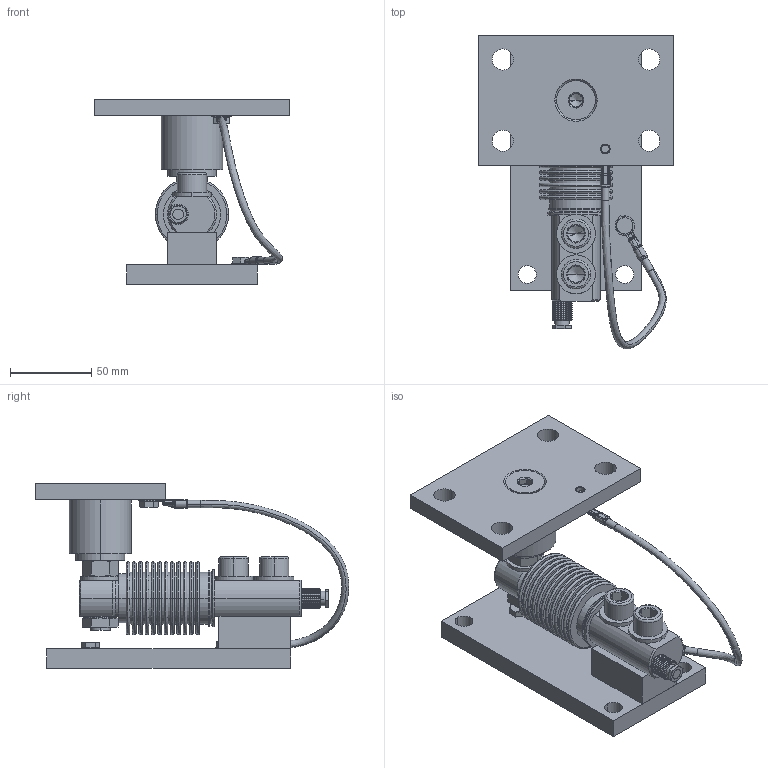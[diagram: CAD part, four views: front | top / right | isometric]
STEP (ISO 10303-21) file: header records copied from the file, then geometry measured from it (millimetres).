
FILE_DESCRIPTION((''),'1');
FILE_NAME('LMLAE_standard.step','2020-06-29T14:02:22',(''),(''),'','','');
FILE_SCHEMA(('AUTOMOTIVE_DESIGN { 1 0 10303 214 1 1 1 1 }'));
Products named in the file (27): LMLAE standard; LMLAE part 03; LMLAE part 04; LMLAE part 06; LMLAE cable 01; LMLAE part 07; LMLAE cable 02; LMLAE screw 01; LMLAE screw 02; LMLAE part 08; LMLAE part 09; LMLAE part 10; LMLAE part 12; LMLAE part 13; LMLAE nut 01; LMLAE screw 03; LMLAE screw 04; LMLAE load cell 01; LMLAE body 01; LMLAE cable gland 01; LMLAE screw 05; LMLAE nut 02; LMLAE part 14; LMLAE screw 06; LMLAE part 15
Assembly tree (33 placements, depth 4):
  LMLAE standard
    LMLAE standard
    LMLAE part 07
      LMLAE part 03
        LMLAE part 04
        LMLAE part 06
        LMLAE cable 01
      LMLAE cable 02
      LMLAE part 03
        LMLAE part 04
        LMLAE part 06
        LMLAE cable 01
    LMLAE screw 01  x2
    LMLAE screw 02
    LMLAE part 08
    LMLAE part 13
      LMLAE part 09
        LMLAE part 10
        LMLAE part 12
    LMLAE nut 01
    LMLAE screw 03  x3
    LMLAE screw 04  x2
    LMLAE load cell 01
      LMLAE body 01
      LMLAE cable gland 01
    LMLAE screw 05
    LMLAE nut 02
    LMLAE part 14
    LMLAE screw 06
    LMLAE part 15
Bounding box: 120 x 192.82 x 113.5 mm (x, y, z)
Volume: 420279.6 mm3; surface area: 142910.5 mm2
Topology: 26 solids, 33 shells, 931 faces, 2206 edges, 1363 vertices
Faces by surface type: plane 281, cylinder 270, cone 188, torus 112, bspline 76, extrusion 4
Entity records: 28852 total; most frequent: CARTESIAN_POINT 11392, DIRECTION 3741, ORIENTED_EDGE 3320, EDGE_CURVE 1674, AXIS2_PLACEMENT_3D 1555, VERTEX_POINT 1036, CIRCLE 832, EDGE_LOOP 822
